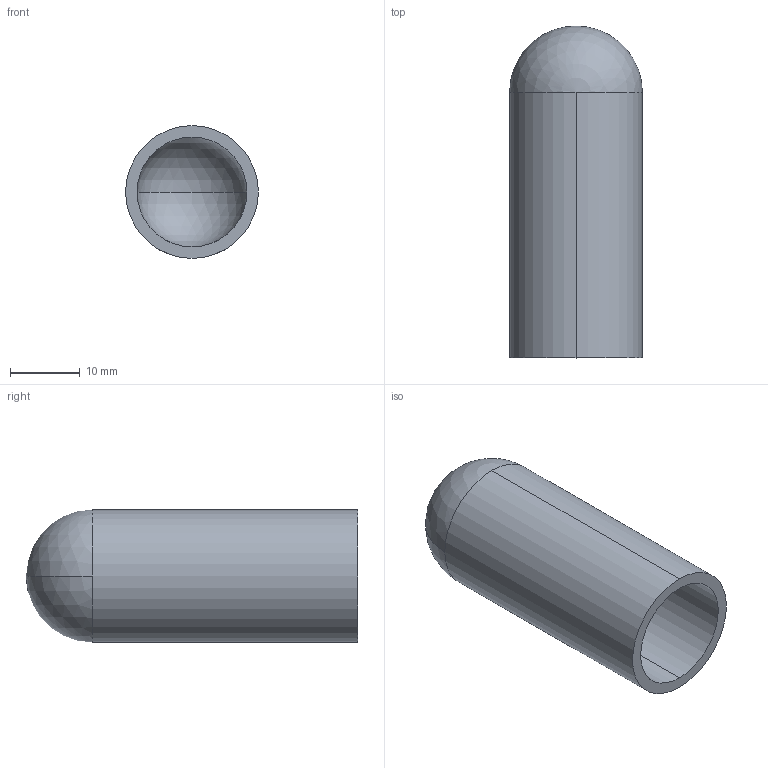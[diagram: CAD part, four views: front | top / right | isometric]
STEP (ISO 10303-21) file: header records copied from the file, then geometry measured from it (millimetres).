
FILE_DESCRIPTION (( 'STEP AP214' ), '1' );
FILE_NAME ('TE16W6L.75-...STEP', '2016-06-01T13:41:34', ( 'eran' ), ( '' ), 'SwSTEP 2.0', 'SolidWorks 2016', '' );
FILE_SCHEMA (( 'AUTOMOTIVE_DESIGN' ));
Length unit declared in the file: millimetre
Products named in the file (1): TE16W6L.75-..
Bounding box: 19.05 x 47.62 x 19.05 mm (x, y, z)
Volume: 4223.5 mm3; surface area: 5215.3 mm2
Topology: 1 solids, 1 shells, 9 faces, 24 edges, 14 vertices
Faces by surface type: cylinder 4, sphere 4, plane 1
Entity records: 300 total; most frequent: DIRECTION 56, CARTESIAN_POINT 44, ORIENTED_EDGE 40, AXIS2_PLACEMENT_3D 26, EDGE_CURVE 20, CIRCLE 16, VERTEX_POINT 14, EDGE_LOOP 10
